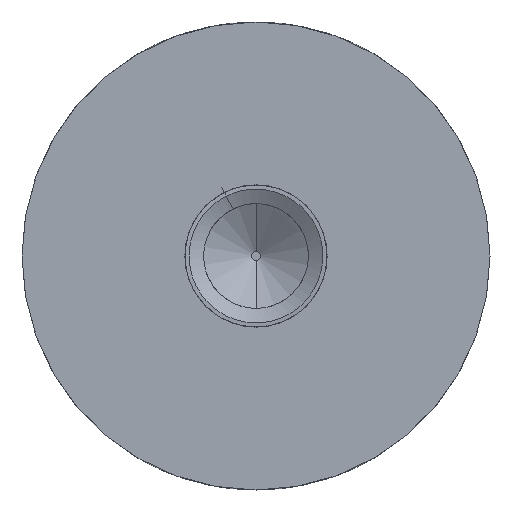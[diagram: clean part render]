
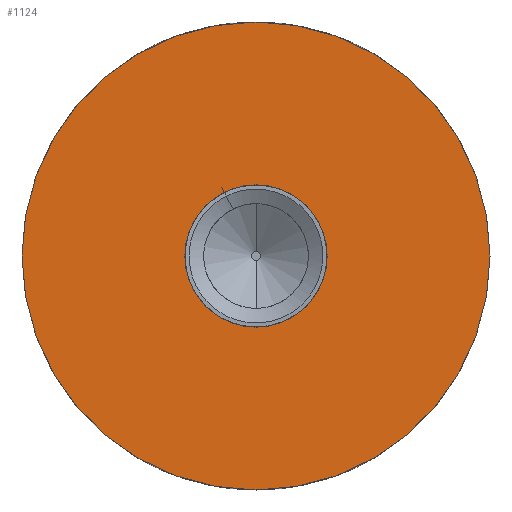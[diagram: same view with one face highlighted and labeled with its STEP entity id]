
A CAD part, left-side view. The second image highlights one B-rep face of the part: STEP entity #1124.
In plain terms, the highlighted planar face has unit normal (-1, 0, 0).
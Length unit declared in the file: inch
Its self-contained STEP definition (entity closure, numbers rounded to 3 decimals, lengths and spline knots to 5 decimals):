
#166 = ORIENTED_EDGE ( 'NONE', *, *, #2708, .T. ) ;
#347 = DIRECTION ( 'NONE',  ( 0., 0., 1. ) ) ;
#355 = DIRECTION ( 'NONE',  ( -1., 0., 0. ) ) ;
#362 = CARTESIAN_POINT ( 'NONE',  ( -0.07654, 1.00092, 1.26973 ) ) ;
#727 = DIRECTION ( 'NONE',  ( 0., 0., 1. ) ) ;
#736 = DIRECTION ( 'NONE',  ( -1., 0., 0. ) ) ;
#746 = CARTESIAN_POINT ( 'NONE',  ( -0.07654, 1.00092, 1.26973 ) ) ;
#760 = CIRCLE ( 'NONE', #2242, 0.133 ) ;
#777 = DIRECTION ( 'NONE',  ( 0., 0., 1. ) ) ;
#800 = DIRECTION ( 'NONE',  ( -1., 0., 0. ) ) ;
#813 = CARTESIAN_POINT ( 'NONE',  ( -0.07654, 1.00092, 1.26973 ) ) ;
#859 = CIRCLE ( 'NONE', #2271, 0.4375 ) ;
#1124 = ADVANCED_FACE ( 'NONE', ( #1687, #1843 ), #1154, .F. ) ;
#1154 = PLANE ( 'NONE',  #2467 ) ;
#1171 = ORIENTED_EDGE ( 'NONE', *, *, #2775, .F. ) ;
#1219 = ORIENTED_EDGE ( 'NONE', *, *, #2774, .T. ) ;
#1341 = VERTEX_POINT ( 'NONE', #2185 ) ;
#1412 = VERTEX_POINT ( 'NONE', #2174 ) ;
#1687 = FACE_BOUND ( 'NONE', #1742, .T. ) ;
#1742 = EDGE_LOOP ( 'NONE', ( #1171, #2593 ) ) ;
#1748 = EDGE_LOOP ( 'NONE', ( #166, #1219 ) ) ;
#1843 = FACE_OUTER_BOUND ( 'NONE', #1748, .T. ) ;
#1923 = DIRECTION ( 'NONE',  ( 0., 0., 1. ) ) ;
#1927 = CIRCLE ( 'NONE', #2230, 0.133 ) ;
#1933 = DIRECTION ( 'NONE',  ( -1., 0., 0. ) ) ;
#1938 = CARTESIAN_POINT ( 'NONE',  ( -0.07654, 1.00092, 1.26973 ) ) ;
#2068 = CARTESIAN_POINT ( 'NONE',  ( -0.07654, 1.00092, 1.70723 ) ) ;
#2099 = CARTESIAN_POINT ( 'NONE',  ( -0.07654, 1.00092, 0.83223 ) ) ;
#2174 = CARTESIAN_POINT ( 'NONE',  ( -0.07654, 1.00092, 1.13673 ) ) ;
#2185 = CARTESIAN_POINT ( 'NONE',  ( -0.07654, 1.00092, 1.40273 ) ) ;
#2230 = AXIS2_PLACEMENT_3D ( 'NONE', #362, #355, #347 ) ;
#2242 = AXIS2_PLACEMENT_3D ( 'NONE', #746, #736, #727 ) ;
#2243 = AXIS2_PLACEMENT_3D ( 'NONE', #813, #800, #777 ) ;
#2271 = AXIS2_PLACEMENT_3D ( 'NONE', #1938, #1933, #1923 ) ;
#2368 = VERTEX_POINT ( 'NONE', #2068 ) ;
#2421 = VERTEX_POINT ( 'NONE', #2099 ) ;
#2467 = AXIS2_PLACEMENT_3D ( 'NONE', #2853, #2840, #2828 ) ;
#2486 = CIRCLE ( 'NONE', #2243, 0.4375 ) ;
#2593 = ORIENTED_EDGE ( 'NONE', *, *, #2801, .F. ) ;
#2708 = EDGE_CURVE ( 'NONE', #2368, #2421, #859, .T. ) ;
#2774 = EDGE_CURVE ( 'NONE', #2421, #2368, #2486, .T. ) ;
#2775 = EDGE_CURVE ( 'NONE', #1341, #1412, #760, .T. ) ;
#2801 = EDGE_CURVE ( 'NONE', #1412, #1341, #1927, .T. ) ;
#2828 = DIRECTION ( 'NONE',  ( 0., 0., -1. ) ) ;
#2840 = DIRECTION ( 'NONE',  ( 1., 0., 0. ) ) ;
#2853 = CARTESIAN_POINT ( 'NONE',  ( -0.07654, 1.00092, 0.83223 ) ) ;
